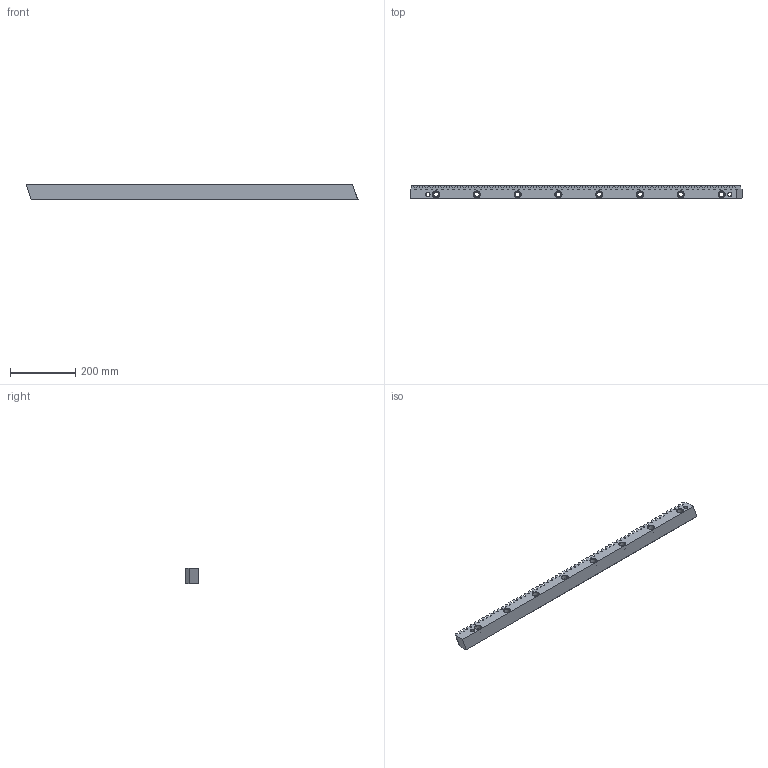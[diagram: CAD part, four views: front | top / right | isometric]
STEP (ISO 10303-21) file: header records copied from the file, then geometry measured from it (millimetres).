
FILE_DESCRIPTION (( 'STEP AP214' ), '1' );
FILE_NAME ('1HR16R050100H.STEP', '2021-12-06T11:27:11', ( '' ), ( '' ), 'SwSTEP 2.0', 'SolidWorks 2021', '' );
FILE_SCHEMA (( 'AUTOMOTIVE_DESIGN' ));
Length unit declared in the file: millimetre
Products named in the file (1): 1HR16R050100H
Bounding box: 1017.38 x 39 x 49 mm (x, y, z)
Volume: 1557274.4 mm3; surface area: 232987.1 mm2
Topology: 1 solids, 1 shells, 687 faces, 1995 edges, 1318 vertices
Faces by surface type: plane 375, cylinder 276, cone 36
Entity records: 22303 total; most frequent: CARTESIAN_POINT 5441, ORIENTED_EDGE 3990, DIRECTION 2999, EDGE_CURVE 1995, VECTOR 1407, LINE 1407, VERTEX_POINT 1318, AXIS2_PLACEMENT_3D 796
